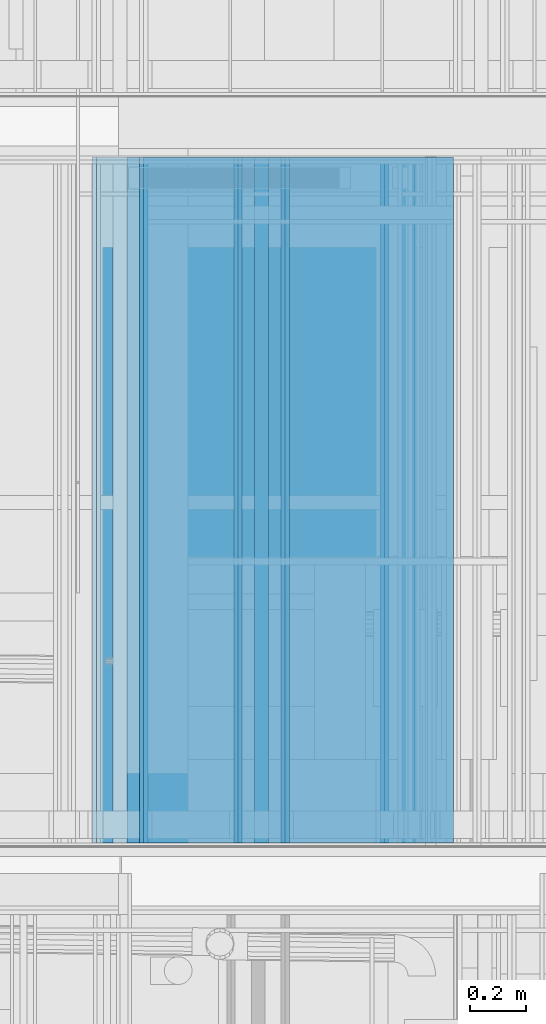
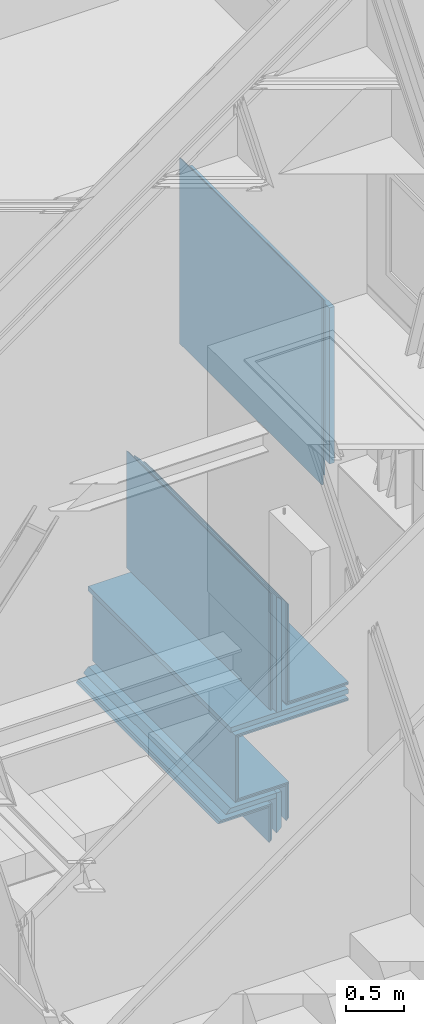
# One storey, part 142 of 583: 25 building element parts, 5 elements without a shape of their own.
"""IFC2X3 building model written with IfcOpenShell, lengths in metres."""

from ifc_helpers import new_model, entity, si_unit, converted_unit, derived_unit, money_unit, direction, frame, frame_2d, origin_with_axes, place, context, subcontext, project, spatial, polyline, rectangle, outline, extrude, material, type_object, element, aggregate, save


model = new_model("IFC2X3")

# Units and contexts
model_context = context("Model", 3, precision=1e-05, world=origin_with_axes(), true_north=direction((0.0, 1.0)))
body_context = subcontext(model_context, "Body", "Model", "MODEL_VIEW", scale=1.0)
ifc_project = project(units=[si_unit("LENGTHUNIT", "METRE"), si_unit("AREAUNIT", "SQUARE_METRE"), si_unit("VOLUMEUNIT", "CUBIC_METRE"), si_unit("ABSORBEDDOSEUNIT", "GRAY"), si_unit("AMOUNTOFSUBSTANCEUNIT", "MOLE"), si_unit("DOSEEQUIVALENTUNIT", "SIEVERT"), si_unit("ELECTRICCAPACITANCEUNIT", "FARAD"), si_unit("ELECTRICCHARGEUNIT", "COULOMB"), si_unit("ELECTRICCONDUCTANCEUNIT", "SIEMENS"), si_unit("ELECTRICCURRENTUNIT", "AMPERE"), si_unit("ELECTRICRESISTANCEUNIT", "OHM"), si_unit("ELECTRICVOLTAGEUNIT", "VOLT"), si_unit("ENERGYUNIT", "JOULE"), si_unit("FORCEUNIT", "NEWTON"), si_unit("FREQUENCYUNIT", "HERTZ"), si_unit("ILLUMINANCEUNIT", "LUX"), si_unit("INDUCTANCEUNIT", "HENRY"), si_unit("LUMINOUSFLUXUNIT", "LUMEN"), si_unit("LUMINOUSINTENSITYUNIT", "CANDELA"), si_unit("MAGNETICFLUXDENSITYUNIT", "TESLA"), si_unit("MAGNETICFLUXUNIT", "WEBER"), si_unit("MASSUNIT", "GRAM"), converted_unit("PLANEANGLEUNIT", "degree", entity("IfcReal", 0.0174532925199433), si_unit("PLANEANGLEUNIT", "RADIAN"), dimensions=[0, 0, 0, 0, 0, 0, 0]), si_unit("POWERUNIT", "WATT"), si_unit("PRESSUREUNIT", "PASCAL"), si_unit("RADIOACTIVITYUNIT", "BECQUEREL"), si_unit("SOLIDANGLEUNIT", "STERADIAN"), si_unit("THERMODYNAMICTEMPERATUREUNIT", "KELVIN"), si_unit("TIMEUNIT", "SECOND"), derived_unit("ACCELERATIONUNIT", [(si_unit("LENGTHUNIT", "METRE"), 1), (si_unit("TIMEUNIT", "SECOND"), -2)]), derived_unit("ANGULARVELOCITYUNIT", [(converted_unit("PLANEANGLEUNIT", "degree", entity("IfcReal", 0.0174532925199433), si_unit("PLANEANGLEUNIT", "RADIAN"), dimensions=[0, 0, 0, 0, 0, 0, 0]), 1), (si_unit("TIMEUNIT", "SECOND"), -1)]), derived_unit("CURVATUREUNIT", [(converted_unit("PLANEANGLEUNIT", "degree", entity("IfcReal", 0.0174532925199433), si_unit("PLANEANGLEUNIT", "RADIAN"), dimensions=[0, 0, 0, 0, 0, 0, 0]), 1), (si_unit("LENGTHUNIT", "METRE"), -1)]), derived_unit("DYNAMICVISCOSITYUNIT", [(si_unit("PRESSUREUNIT", "PASCAL"), 1), (si_unit("TIMEUNIT", "SECOND"), 1)]), derived_unit("HEATFLUXDENSITYUNIT", [(si_unit("POWERUNIT", "WATT"), 1), (si_unit("LENGTHUNIT", "METRE"), -2)]), derived_unit("HEATINGVALUEUNIT", [(si_unit("ENERGYUNIT", "JOULE"), 1), (si_unit("MASSUNIT", "GRAM"), -1)]), derived_unit("INTEGERCOUNTRATEUNIT", [(si_unit("TIMEUNIT", "SECOND"), -1)]), derived_unit("IONCONCENTRATIONUNIT", [(si_unit("MASSUNIT", "GRAM"), 1), (si_unit("VOLUMEUNIT", "CUBIC_METRE"), -1)]), derived_unit("ISOTHERMALMOISTURECAPACITYUNIT", [(si_unit("VOLUMEUNIT", "CUBIC_METRE"), 1), (si_unit("MASSUNIT", "GRAM"), -1)]), derived_unit("KINEMATICVISCOSITYUNIT", [(si_unit("AREAUNIT", "SQUARE_METRE"), 1), (si_unit("TIMEUNIT", "SECOND"), -1)]), derived_unit("LINEARFORCEUNIT", [(si_unit("FORCEUNIT", "NEWTON"), 1), (si_unit("LENGTHUNIT", "METRE"), -1)]), derived_unit("LINEARMOMENTUNIT", [(si_unit("FORCEUNIT", "NEWTON"), 1), (si_unit("LENGTHUNIT", "METRE"), -1)]), derived_unit("LINEARSTIFFNESSUNIT", [(si_unit("FORCEUNIT", "NEWTON"), 1), (si_unit("LENGTHUNIT", "METRE"), -1)]), derived_unit("LINEARVELOCITYUNIT", [(si_unit("LENGTHUNIT", "METRE"), 1), (si_unit("TIMEUNIT", "SECOND"), -1)]), derived_unit("LUMINOUSINTENSITYDISTRIBUTIONUNIT", [(si_unit("LUMINOUSINTENSITYUNIT", "CANDELA"), 1), (si_unit("LUMINOUSFLUXUNIT", "LUMEN"), -1)]), derived_unit("MASSDENSITYUNIT", [(si_unit("MASSUNIT", "GRAM"), 1), (si_unit("VOLUMEUNIT", "CUBIC_METRE"), -1)]), derived_unit("MASSFLOWRATEUNIT", [(si_unit("MASSUNIT", "GRAM"), 1), (si_unit("TIMEUNIT", "SECOND"), -1)]), derived_unit("MASSPERLENGTHUNIT", [(si_unit("MASSUNIT", "GRAM"), 1), (si_unit("LENGTHUNIT", "METRE"), -1)]), derived_unit("MODULUSOFELASTICITYUNIT", [(si_unit("FORCEUNIT", "NEWTON"), 1), (si_unit("AREAUNIT", "SQUARE_METRE"), -1)]), derived_unit("MODULUSOFLINEARSUBGRADEREACTIONUNIT", [(si_unit("FORCEUNIT", "NEWTON"), 1), (si_unit("LENGTHUNIT", "METRE"), -2)]), derived_unit("MODULUSOFROTATIONALSUBGRADEREACTIONUNIT", [(si_unit("FORCEUNIT", "NEWTON"), 1), (si_unit("LENGTHUNIT", "METRE"), 1)]), derived_unit("MODULUSOFSUBGRADEREACTIONUNIT", [(si_unit("FORCEUNIT", "NEWTON"), 1), (si_unit("VOLUMEUNIT", "CUBIC_METRE"), -1)]), derived_unit("MOISTUREDIFFUSIVITYUNIT", [(si_unit("VOLUMEUNIT", "CUBIC_METRE"), 1), (si_unit("TIMEUNIT", "SECOND"), -1)]), derived_unit("MOLECULARWEIGHTUNIT", [(si_unit("MASSUNIT", "GRAM"), 1), (si_unit("AMOUNTOFSUBSTANCEUNIT", "MOLE"), -1)]), derived_unit("PLANARFORCEUNIT", [(si_unit("FORCEUNIT", "NEWTON"), 1), (si_unit("LENGTHUNIT", "METRE"), -2)]), derived_unit("ROTATIONALFREQUENCYUNIT", [(si_unit("TIMEUNIT", "SECOND"), -1)]), derived_unit("ROTATIONALMASSUNIT", [(si_unit("MASSUNIT", "GRAM"), 1), (si_unit("LENGTHUNIT", "METRE"), 2)]), derived_unit("ROTATIONALSTIFFNESSUNIT", [(si_unit("FORCEUNIT", "NEWTON"), 1), (si_unit("LENGTHUNIT", "METRE"), 1), (converted_unit("PLANEANGLEUNIT", "degree", entity("IfcReal", 0.0174532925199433), si_unit("PLANEANGLEUNIT", "RADIAN"), dimensions=[0, 0, 0, 0, 0, 0, 0]), -1)]), derived_unit("SECTIONAREAINTEGRALUNIT", [(si_unit("LENGTHUNIT", "METRE"), 5)]), derived_unit("SECTIONMODULUSUNIT", [(si_unit("LENGTHUNIT", "METRE"), 3)]), derived_unit("SHEARMODULUSUNIT", [(si_unit("FORCEUNIT", "NEWTON"), 1), (si_unit("AREAUNIT", "SQUARE_METRE"), -1)]), derived_unit("SOUNDPOWERUNIT", [(si_unit("ENERGYUNIT", "JOULE"), 1), (si_unit("TIMEUNIT", "SECOND"), -1)]), derived_unit("SPECIFICHEATCAPACITYUNIT", [(si_unit("FORCEUNIT", "NEWTON"), 1), (si_unit("MASSUNIT", "GRAM"), -1), (si_unit("THERMODYNAMICTEMPERATUREUNIT", "KELVIN"), -1)]), derived_unit("TEMPERATUREGRADIENTUNIT", [(si_unit("THERMODYNAMICTEMPERATUREUNIT", "KELVIN"), 1), (si_unit("LENGTHUNIT", "METRE"), -1)]), derived_unit("THERMALADMITTANCEUNIT", [(si_unit("POWERUNIT", "WATT"), 1), (si_unit("AREAUNIT", "SQUARE_METRE"), -1), (si_unit("THERMODYNAMICTEMPERATUREUNIT", "KELVIN"), -1)]), derived_unit("THERMALCONDUCTANCEUNIT", [(si_unit("POWERUNIT", "WATT"), 1), (si_unit("LENGTHUNIT", "METRE"), -1), (si_unit("THERMODYNAMICTEMPERATUREUNIT", "KELVIN"), -1)]), derived_unit("THERMALEXPANSIONCOEFFICIENTUNIT", [(si_unit("THERMODYNAMICTEMPERATUREUNIT", "KELVIN"), -1)]), derived_unit("THERMALRESISTANCEUNIT", [(si_unit("AREAUNIT", "SQUARE_METRE"), 1), (si_unit("POWERUNIT", "WATT"), -1)]), derived_unit("THERMALTRANSMITTANCEUNIT", [(si_unit("POWERUNIT", "WATT"), 1), (si_unit("AREAUNIT", "SQUARE_METRE"), -1), (si_unit("THERMODYNAMICTEMPERATUREUNIT", "KELVIN"), -1)]), derived_unit("TORQUEUNIT", [(si_unit("FORCEUNIT", "NEWTON"), 1), (si_unit("LENGTHUNIT", "METRE"), 1)]), derived_unit("VAPORPERMEABILITYUNIT", [(si_unit("MASSUNIT", "GRAM"), 1), (si_unit("TIMEUNIT", "SECOND"), -1)]), derived_unit("VOLUMETRICFLOWRATEUNIT", [(si_unit("VOLUMEUNIT", "CUBIC_METRE"), 1), (si_unit("TIMEUNIT", "SECOND"), -1)]), derived_unit("WARPINGCONSTANTUNIT", [(si_unit("LENGTHUNIT", "METRE"), 6)]), derived_unit("WARPINGMOMENTUNIT", [(si_unit("FORCEUNIT", "NEWTON"), 1), (si_unit("LENGTHUNIT", "METRE"), 2)]), money_unit("GBP")], contexts=[model_context])

# Site, building, storey
site_placement = place(None, origin_with_axes())
site = spatial("IfcSite", under=ifc_project, at=site_placement, Name="Site", CompositionType="ELEMENT")
building_placement = place(site_placement, origin_with_axes())
building = spatial("IfcBuilding", under=site, at=building_placement, Name="Building01", CompositionType="ELEMENT")
storey_placement = place(building_placement, frame((0.0, 0.0, 20.78), z_axis=(0.0, 0.0, 1.0), x_axis=(1.0, 0.0, 0.0)))
storey = spatial("IfcBuildingStorey", under=building, at=storey_placement, Name="RL", CompositionType="ELEMENT", Elevation=20.78)

# Wall, building element parts
wall_type = type_object("IfcWallType", Name="SHE_A-Walls_Type01d_Partywall_200mm_twin", PredefinedType="NOTDEFINED")
wall_1_placement = place(storey_placement, frame((3.805, 14.98, -7.255), z_axis=(0.0, 1.0, 0.0), x_axis=(1.0, 0.0, 0.0)))
wall_1 = element("IfcWall", 1, at=wall_1_placement, inside=storey, type_object=wall_type, Name="1D", ObjectType="SHE_A-Walls_Type01d_Partywall_200mm_twin")
ifc_material_1 = material(Name="A_BSUK_Insulation")
placement_1 = place(wall_1_placement, origin_with_axes())
building_element_part_1 = element("IfcBuildingElementPart", 2, at=placement_1, material=ifc_material_1, Name="1", context=body_context, shape_type="SweptSolid", body=[
    extrude(rectangle(XDim=1.175, YDim=0.05, at=frame_2d((0.5875, 0.025), x_axis=(-1.0, 0.0))), origin_with_axes(), (0.0, 0.0, 1.0), 2.468),
])
ifc_material_2 = material(Name="A_BSUK_WallInternal_Finishes_Plasterboard")
building_element_part_2 = element("IfcBuildingElementPart", 3, at=placement_1, material=ifc_material_2, Name="3", context=body_context, shape_type="SweptSolid", body=[
    extrude(outline(polyline([(1.175, 0.125), (0.075, 0.125), (0.06, 0.11), (1.175, 0.11), (1.175, 0.125)])), origin_with_axes(), (0.0, 0.0, 1.0), 2.468),
])
building_element_part_3 = element("IfcBuildingElementPart", 4, at=placement_1, material=ifc_material_2, Name="4", context=body_context, shape_type="SweptSolid", body=[
    extrude(outline(polyline([(1.175, 0.11), (0.06, 0.11), (0.045, 0.095), (1.175, 0.095), (1.175, 0.11)])), origin_with_axes(), (0.0, 0.0, 1.0), 2.468),
])
building_element_part_4 = element("IfcBuildingElementPart", 5, at=placement_1, material=ifc_material_2, Name="5", context=body_context, shape_type="SweptSolid", body=[
    extrude(rectangle(XDim=0.620572, YDim=0.015, at=frame_2d((0.864714, -0.0525), x_axis=(-1.0, 0.0))), origin_with_axes(), (0.0, 0.0, 1.0), 2.468),
])
building_element_part_5 = element("IfcBuildingElementPart", 6, at=placement_1, material=ifc_material_2, Name="6", context=body_context, shape_type="SweptSolid", body=[
    extrude(rectangle(XDim=0.605572, YDim=0.015, at=frame_2d((0.872214, -0.0675), x_axis=(-1.0, 0.0))), origin_with_axes(), (0.0, 0.0, 1.0), 2.468),
])
aggregate(wall_1, [building_element_part_1, building_element_part_2, building_element_part_3, building_element_part_4, building_element_part_5])

wall_2_placement = place(storey_placement, frame((3.78, 14.98, -8.13), z_axis=(0.0, 1.0, 0.0), x_axis=(0.0, 0.0, 1.0)))
wall_2 = element("IfcWall", 7, at=wall_2_placement, inside=storey, type_object=wall_type, Name="1D", ObjectType="SHE_A-Walls_Type01d_Partywall_200mm_twin")
placement_2 = place(wall_2_placement, origin_with_axes())
building_element_part_6 = element("IfcBuildingElementPart", 8, at=placement_2, material=ifc_material_2, Name="3", context=body_context, shape_type="SweptSolid", body=[
    extrude(outline(polyline([(0.75, 0.1), (0.1, 0.1), (0.085, 0.085), (0.765, 0.085), (0.75, 0.1)])), origin_with_axes(), (0.0, 0.0, 1.0), 2.468),
])
building_element_part_7 = element("IfcBuildingElementPart", 9, at=placement_2, material=ifc_material_2, Name="4", context=body_context, shape_type="SweptSolid", body=[
    extrude(outline(polyline([(0.765, 0.085), (0.085, 0.085), (0.07, 0.07), (0.78, 0.07), (0.765, 0.085)])), origin_with_axes(), (0.0, 0.0, 1.0), 2.468),
])
aggregate(wall_2, [building_element_part_6, building_element_part_7])

wall_3_placement = place(storey_placement, frame((4.264428, 14.98, -8.13), z_axis=(0.0, 1.0, 0.0), x_axis=(-1.0, 0.0, 0.0)))
wall_3 = element("IfcWall", 10, at=wall_3_placement, inside=storey, type_object=wall_type, Name="1D", ObjectType="SHE_A-Walls_Type01d_Partywall_200mm_twin")
placement_3 = place(wall_3_placement, origin_with_axes())
building_element_part_8 = element("IfcBuildingElementPart", 11, at=placement_3, material=ifc_material_1, Name="1", context=body_context, shape_type="SweptSolid", body=[
    extrude(outline(polyline([(0.459428, 0.025), (0.0, 0.025), (0.0, -0.025), (0.509428, -0.025), (0.459428, 0.025)])), origin_with_axes(), (0.0, 0.0, 1.0), 2.468),
])
building_element_part_9 = element("IfcBuildingElementPart", 12, at=placement_3, material=ifc_material_2, Name="3", context=body_context, shape_type="SweptSolid", body=[
    extrude(outline(polyline([(0.384428, 0.1), (-0.125, 0.1), (-0.125, 0.085), (0.399428, 0.085), (0.384428, 0.1)])), origin_with_axes(), (0.0, 0.0, 1.0), 2.468),
])
building_element_part_10 = element("IfcBuildingElementPart", 13, at=placement_3, material=ifc_material_2, Name="4", context=body_context, shape_type="SweptSolid", body=[
    extrude(outline(polyline([(0.399428, 0.085), (-0.095, 0.085), (-0.095, 0.07), (0.414428, 0.07), (0.399428, 0.085)])), origin_with_axes(), (0.0, 0.0, 1.0), 2.468),
])
building_element_part_11 = element("IfcBuildingElementPart", 14, at=placement_3, material=ifc_material_2, Name="5", context=body_context, shape_type="SweptSolid", body=[
    extrude(outline(polyline([(0.554428, -0.07), (0.06, -0.07), (0.06, -0.085), (0.569428, -0.085), (0.554428, -0.07)])), origin_with_axes(), (0.0, 0.0, 1.0), 2.468),
])
building_element_part_12 = element("IfcBuildingElementPart", 15, at=placement_3, material=ifc_material_2, Name="6", context=body_context, shape_type="SweptSolid", body=[
    extrude(outline(polyline([(0.569428, -0.085), (0.075, -0.085), (0.075, -0.1), (0.584428, -0.1), (0.569428, -0.085)])), origin_with_axes(), (0.0, 0.0, 1.0), 2.468),
])
aggregate(wall_3, [building_element_part_8, building_element_part_9, building_element_part_10, building_element_part_11, building_element_part_12])

wall_4_placement = place(storey_placement, frame((4.314428, 14.98, -6.08), z_axis=(0.0, 1.0, 0.0), x_axis=(0.0, 0.0, -1.0)))
wall_4 = element("IfcWall", 16, at=wall_4_placement, inside=storey, type_object=wall_type, Name="1D", ObjectType="SHE_A-Walls_Type01d_Partywall_200mm_twin")
placement_4 = place(wall_4_placement, origin_with_axes())
building_element_part_13 = element("IfcBuildingElementPart", 17, at=placement_4, material=ifc_material_1, Name="1", context=body_context, shape_type="SweptSolid", body=[
    extrude(outline(polyline([(1.175, 0.05), (-0.05, 0.05), (0.0, 0.0), (1.175, 0.0), (1.175, 0.05)])), origin_with_axes(), (0.0, 0.0, 1.0), 2.468),
])
building_element_part_14 = element("IfcBuildingElementPart", 18, at=placement_4, material=ifc_material_1, Name="2", context=body_context, shape_type="SweptSolid", body=[
    extrude(outline(polyline([(2.45, 0.05), (2.025, 0.05), (2.025, 0.0), (2.4, 0.0), (2.45, 0.05)])), origin_with_axes(), (0.0, 0.0, 1.0), 2.468),
])
building_element_part_15 = element("IfcBuildingElementPart", 19, at=placement_4, material=ifc_material_2, Name="4", context=body_context, shape_type="SweptSolid", body=[
    extrude(outline(polyline([(1.115, 0.125), (-0.125, 0.125), (-0.11, 0.11), (1.115, 0.11), (1.115, 0.125)])), origin_with_axes(), (0.0, 0.0, 1.0), 2.468),
])
building_element_part_16 = element("IfcBuildingElementPart", 20, at=placement_4, material=ifc_material_2, Name="5", context=body_context, shape_type="SweptSolid", body=[
    extrude(outline(polyline([(1.13, 0.11), (-0.11, 0.11), (-0.095, 0.095), (1.13, 0.095), (1.13, 0.11)])), origin_with_axes(), (0.0, 0.0, 1.0), 2.468),
])
building_element_part_17 = element("IfcBuildingElementPart", 21, at=placement_4, material=ifc_material_2, Name="6", context=body_context, shape_type="SweptSolid", body=[
    extrude(outline(polyline([(1.115, -0.045), (0.045, -0.045), (0.06, -0.06), (1.115, -0.06), (1.115, -0.045)])), origin_with_axes(), (0.0, 0.0, 1.0), 2.468),
])
building_element_part_18 = element("IfcBuildingElementPart", 22, at=placement_4, material=ifc_material_2, Name="7", context=body_context, shape_type="SweptSolid", body=[
    extrude(outline(polyline([(1.1, -0.06), (0.06, -0.06), (0.075, -0.075), (1.1, -0.075), (1.1, -0.06)])), origin_with_axes(), (0.0, 0.0, 1.0), 2.468),
])
building_element_part_19 = element("IfcBuildingElementPart", 23, at=placement_4, material=ifc_material_2, Name="10", context=body_context, shape_type="SweptSolid", body=[
    extrude(outline(polyline([(2.34, -0.06), (1.965, -0.06), (1.965, -0.075), (2.325, -0.075), (2.34, -0.06)])), origin_with_axes(), (0.0, 0.0, 1.0), 2.468),
])
building_element_part_20 = element("IfcBuildingElementPart", 24, at=placement_4, material=ifc_material_2, Name="11", context=body_context, shape_type="SweptSolid", body=[
    extrude(outline(polyline([(2.355, -0.045), (1.965, -0.045), (1.965, -0.06), (2.34, -0.06), (2.355, -0.045)])), origin_with_axes(), (0.0, 0.0, 1.0), 2.468),
])
building_element_part_21 = element("IfcBuildingElementPart", 25, at=placement_4, material=ifc_material_2, Name="13", context=body_context, shape_type="SweptSolid", body=[
    extrude(outline(polyline([(2.525, 0.125), (2.135, 0.125), (2.135, 0.11), (2.51, 0.11), (2.525, 0.125)])), origin_with_axes(), (0.0, 0.0, 1.0), 2.468),
])
building_element_part_22 = element("IfcBuildingElementPart", 26, at=placement_4, material=ifc_material_2, Name="14", context=body_context, shape_type="SweptSolid", body=[
    extrude(outline(polyline([(2.51, 0.11), (2.12, 0.11), (2.12, 0.095), (2.495, 0.095), (2.51, 0.11)])), origin_with_axes(), (0.0, 0.0, 1.0), 2.468),
])
aggregate(wall_4, [building_element_part_13, building_element_part_14, building_element_part_15, building_element_part_16, building_element_part_17, building_element_part_18, building_element_part_19, building_element_part_20, building_element_part_21, building_element_part_22])

wall_5_placement = place(storey_placement, frame((4.842, 14.98, -3.16656), z_axis=(0.0, 1.0, 0.0), x_axis=(0.0, 0.0, -1.0)))
wall_5 = element("IfcWall", 27, at=wall_5_placement, inside=storey, type_object=wall_type, Name="1D", ObjectType="SHE_A-Walls_Type01d_Partywall_200mm_twin")
placement_5 = place(wall_5_placement, origin_with_axes())
building_element_part_23 = element("IfcBuildingElementPart", 28, at=placement_5, material=ifc_material_1, Name="1", context=body_context, shape_type="SweptSolid", body=[
    extrude(rectangle(XDim=1.65, YDim=0.05, at=frame_2d((0.825, 0.025), x_axis=(-1.0, 0.0))), origin_with_axes(), (0.0, 0.0, 1.0), 2.468),
])
building_element_part_24 = element("IfcBuildingElementPart", 29, at=placement_5, material=ifc_material_2, Name="3", context=body_context, shape_type="SweptSolid", body=[
    extrude(outline(polyline([(1.84344, 0.125), (-0.125, 0.125), (-0.11, 0.11), (1.84344, 0.11), (1.84344, 0.125)])), origin_with_axes(), (0.0, 0.0, 1.0), 2.468),
])
building_element_part_25 = element("IfcBuildingElementPart", 30, at=placement_5, material=ifc_material_2, Name="4", context=body_context, shape_type="SweptSolid", body=[
    extrude(outline(polyline([(1.745, 0.11), (-0.11, 0.11), (-0.095, 0.095), (1.745, 0.095), (1.745, 0.11)])), origin_with_axes(), (0.0, 0.0, 1.0), 2.468),
])
aggregate(wall_5, [building_element_part_23, building_element_part_24, building_element_part_25])

save(model, "model.ifc")
